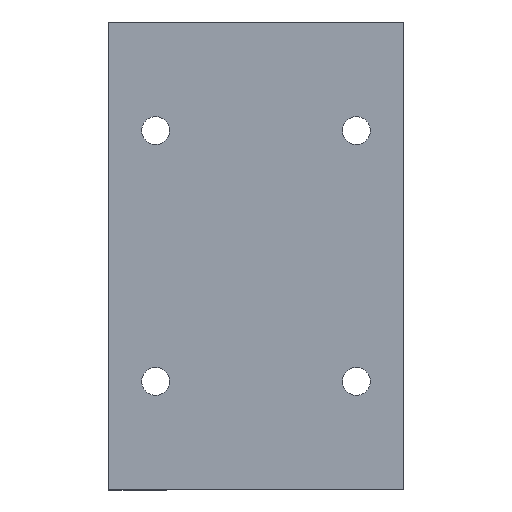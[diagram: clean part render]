
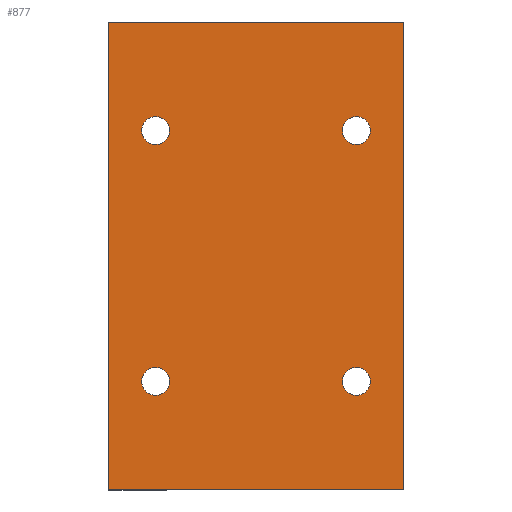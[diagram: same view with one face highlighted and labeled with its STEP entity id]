
A CAD part, front view. The second image highlights one B-rep face of the part: STEP entity #877.
In plain terms, the highlighted planar face has unit normal (0, -1, 0).
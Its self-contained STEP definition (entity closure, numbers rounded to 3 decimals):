
#33 = CARTESIAN_POINT ( 'NONE',  ( 18., -21., 22.5 ) ) ;
#37 = DIRECTION ( 'NONE',  ( 0., 0., -1. ) ) ;
#66 = EDGE_CURVE ( 'NONE', #549, #325, #214, .T. ) ;
#106 = VERTEX_POINT ( 'NONE', #900 ) ;
#120 = CARTESIAN_POINT ( 'NONE',  ( -26.5, -21., -42. ) ) ;
#126 = EDGE_CURVE ( 'NONE', #1912, #106, #1826, .T. ) ;
#136 = AXIS2_PLACEMENT_3D ( 'NONE', #2121, #759, #430 ) ;
#161 = ORIENTED_EDGE ( 'NONE', *, *, #283, .F. ) ;
#211 = DIRECTION ( 'NONE',  ( 0., 0., -1. ) ) ;
#214 = CIRCLE ( 'NONE', #1318, 2.5 ) ;
#222 = CARTESIAN_POINT ( 'NONE',  ( 26.5, -21., 42. ) ) ;
#224 = FACE_BOUND ( 'NONE', #910, .T. ) ;
#231 = LINE ( 'NONE', #1811, #1563 ) ;
#242 = AXIS2_PLACEMENT_3D ( 'NONE', #729, #889, #1075 ) ;
#275 = CARTESIAN_POINT ( 'NONE',  ( -18., -21., 20. ) ) ;
#283 = EDGE_CURVE ( 'NONE', #106, #1912, #1016, .T. ) ;
#285 = VERTEX_POINT ( 'NONE', #120 ) ;
#325 = VERTEX_POINT ( 'NONE', #275 ) ;
#335 = ORIENTED_EDGE ( 'NONE', *, *, #1671, .F. ) ;
#373 = CARTESIAN_POINT ( 'NONE',  ( -18., -21., 22.5 ) ) ;
#386 = VERTEX_POINT ( 'NONE', #2223 ) ;
#392 = DIRECTION ( 'NONE',  ( 0., 0., 1. ) ) ;
#424 = CARTESIAN_POINT ( 'NONE',  ( -26.5, -21., 42. ) ) ;
#430 = DIRECTION ( 'NONE',  ( 0., 0., -1. ) ) ;
#434 = EDGE_CURVE ( 'NONE', #1873, #285, #1068, .T. ) ;
#457 = EDGE_CURVE ( 'NONE', #2040, #488, #1534, .T. ) ;
#462 = AXIS2_PLACEMENT_3D ( 'NONE', #373, #907, #1285 ) ;
#488 = VERTEX_POINT ( 'NONE', #1094 ) ;
#544 = VECTOR ( 'NONE', #37, 1000. ) ;
#549 = VERTEX_POINT ( 'NONE', #1545 ) ;
#571 = ORIENTED_EDGE ( 'NONE', *, *, #66, .F. ) ;
#588 = FACE_BOUND ( 'NONE', #1875, .T. ) ;
#590 = VERTEX_POINT ( 'NONE', #621 ) ;
#621 = CARTESIAN_POINT ( 'NONE',  ( 18., -21., 25. ) ) ;
#638 = DIRECTION ( 'NONE',  ( 1., 0., 0. ) ) ;
#645 = VECTOR ( 'NONE', #211, 1000. ) ;
#665 = DIRECTION ( 'NONE',  ( 0., -1., 0. ) ) ;
#717 = DIRECTION ( 'NONE',  ( 0., 0., -1. ) ) ;
#729 = CARTESIAN_POINT ( 'NONE',  ( -18., -21., -22.5 ) ) ;
#757 = PLANE ( 'NONE',  #1528 ) ;
#759 = DIRECTION ( 'NONE',  ( 0., -1., 0. ) ) ;
#761 = EDGE_CURVE ( 'NONE', #325, #549, #1220, .T. ) ;
#793 = EDGE_CURVE ( 'NONE', #1873, #1968, #2109, .T. ) ;
#804 = ORIENTED_EDGE ( 'NONE', *, *, #1691, .F. ) ;
#832 = CARTESIAN_POINT ( 'NONE',  ( 18., -21., 20. ) ) ;
#839 = AXIS2_PLACEMENT_3D ( 'NONE', #2261, #665, #717 ) ;
#874 = EDGE_LOOP ( 'NONE', ( #335, #1689 ) ) ;
#877 = ADVANCED_FACE ( 'NONE', ( #224, #1249, #1638, #588, #1983 ), #757, .F. ) ;
#883 = EDGE_LOOP ( 'NONE', ( #161, #1455 ) ) ;
#889 = DIRECTION ( 'NONE',  ( 0., -1., 0. ) ) ;
#900 = CARTESIAN_POINT ( 'NONE',  ( 18., -21., -25. ) ) ;
#907 = DIRECTION ( 'NONE',  ( 0., -1., 0. ) ) ;
#910 = EDGE_LOOP ( 'NONE', ( #1832, #571 ) ) ;
#929 = AXIS2_PLACEMENT_3D ( 'NONE', #1633, #1433, #1422 ) ;
#982 = CARTESIAN_POINT ( 'NONE',  ( 18., -21., -22.5 ) ) ;
#1016 = CIRCLE ( 'NONE', #1321, 2.5 ) ;
#1036 = EDGE_LOOP ( 'NONE', ( #1970, #1957, #1058, #1243 ) ) ;
#1058 = ORIENTED_EDGE ( 'NONE', *, *, #793, .F. ) ;
#1068 = LINE ( 'NONE', #1427, #544 ) ;
#1075 = DIRECTION ( 'NONE',  ( 0., 0., -1. ) ) ;
#1090 = DIRECTION ( 'NONE',  ( 0., -1., 0. ) ) ;
#1094 = CARTESIAN_POINT ( 'NONE',  ( -18., -21., -20. ) ) ;
#1219 = EDGE_CURVE ( 'NONE', #1968, #386, #1778, .T. ) ;
#1220 = CIRCLE ( 'NONE', #462, 2.5 ) ;
#1227 = DIRECTION ( 'NONE',  ( 0., -1., 0. ) ) ;
#1243 = ORIENTED_EDGE ( 'NONE', *, *, #434, .T. ) ;
#1249 = FACE_OUTER_BOUND ( 'NONE', #1036, .T. ) ;
#1285 = DIRECTION ( 'NONE',  ( 0., 0., -1. ) ) ;
#1295 = VECTOR ( 'NONE', #1451, 1000. ) ;
#1318 = AXIS2_PLACEMENT_3D ( 'NONE', #2090, #1227, #2104 ) ;
#1321 = AXIS2_PLACEMENT_3D ( 'NONE', #982, #1679, #1333 ) ;
#1333 = DIRECTION ( 'NONE',  ( 0., 0., -1. ) ) ;
#1378 = AXIS2_PLACEMENT_3D ( 'NONE', #33, #1090, #1445 ) ;
#1417 = CARTESIAN_POINT ( 'NONE',  ( 18., -21., -20. ) ) ;
#1422 = DIRECTION ( 'NONE',  ( 0., 0., -1. ) ) ;
#1427 = CARTESIAN_POINT ( 'NONE',  ( -26.5, -21., 42. ) ) ;
#1433 = DIRECTION ( 'NONE',  ( 0., -1., 0. ) ) ;
#1445 = DIRECTION ( 'NONE',  ( 0., 0., -1. ) ) ;
#1451 = DIRECTION ( 'NONE',  ( 1., 0., 0. ) ) ;
#1455 = ORIENTED_EDGE ( 'NONE', *, *, #126, .F. ) ;
#1528 = AXIS2_PLACEMENT_3D ( 'NONE', #424, #1603, #392 ) ;
#1534 = CIRCLE ( 'NONE', #136, 2.5 ) ;
#1545 = CARTESIAN_POINT ( 'NONE',  ( -18., -21., 25. ) ) ;
#1563 = VECTOR ( 'NONE', #638, 1000. ) ;
#1564 = VERTEX_POINT ( 'NONE', #832 ) ;
#1583 = CARTESIAN_POINT ( 'NONE',  ( 26.5, -21., 42. ) ) ;
#1603 = DIRECTION ( 'NONE',  ( 0., 1., 0. ) ) ;
#1624 = CARTESIAN_POINT ( 'NONE',  ( -26.5, -21., 42. ) ) ;
#1630 = CIRCLE ( 'NONE', #929, 2.5 ) ;
#1633 = CARTESIAN_POINT ( 'NONE',  ( 18., -21., 22.5 ) ) ;
#1635 = CIRCLE ( 'NONE', #242, 2.5 ) ;
#1638 = FACE_BOUND ( 'NONE', #874, .T. ) ;
#1671 = EDGE_CURVE ( 'NONE', #1564, #590, #1630, .T. ) ;
#1679 = DIRECTION ( 'NONE',  ( 0., -1., 0. ) ) ;
#1689 = ORIENTED_EDGE ( 'NONE', *, *, #1730, .F. ) ;
#1691 = EDGE_CURVE ( 'NONE', #488, #2040, #1635, .T. ) ;
#1694 = CARTESIAN_POINT ( 'NONE',  ( -26.5, -21., 42. ) ) ;
#1730 = EDGE_CURVE ( 'NONE', #590, #1564, #1858, .T. ) ;
#1763 = EDGE_CURVE ( 'NONE', #285, #386, #231, .T. ) ;
#1778 = LINE ( 'NONE', #222, #645 ) ;
#1811 = CARTESIAN_POINT ( 'NONE',  ( -26.5, -21., -42. ) ) ;
#1826 = CIRCLE ( 'NONE', #839, 2.5 ) ;
#1832 = ORIENTED_EDGE ( 'NONE', *, *, #761, .F. ) ;
#1858 = CIRCLE ( 'NONE', #1378, 2.5 ) ;
#1873 = VERTEX_POINT ( 'NONE', #1694 ) ;
#1875 = EDGE_LOOP ( 'NONE', ( #2186, #804 ) ) ;
#1912 = VERTEX_POINT ( 'NONE', #1417 ) ;
#1932 = CARTESIAN_POINT ( 'NONE',  ( -18., -21., -25. ) ) ;
#1957 = ORIENTED_EDGE ( 'NONE', *, *, #1219, .F. ) ;
#1968 = VERTEX_POINT ( 'NONE', #1583 ) ;
#1970 = ORIENTED_EDGE ( 'NONE', *, *, #1763, .T. ) ;
#1983 = FACE_BOUND ( 'NONE', #883, .T. ) ;
#2040 = VERTEX_POINT ( 'NONE', #1932 ) ;
#2090 = CARTESIAN_POINT ( 'NONE',  ( -18., -21., 22.5 ) ) ;
#2104 = DIRECTION ( 'NONE',  ( 0., 0., -1. ) ) ;
#2109 = LINE ( 'NONE', #1624, #1295 ) ;
#2121 = CARTESIAN_POINT ( 'NONE',  ( -18., -21., -22.5 ) ) ;
#2186 = ORIENTED_EDGE ( 'NONE', *, *, #457, .F. ) ;
#2223 = CARTESIAN_POINT ( 'NONE',  ( 26.5, -21., -42. ) ) ;
#2261 = CARTESIAN_POINT ( 'NONE',  ( 18., -21., -22.5 ) ) ;
